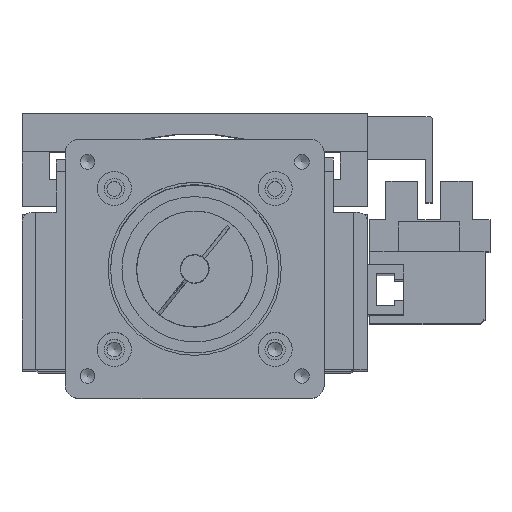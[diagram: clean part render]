
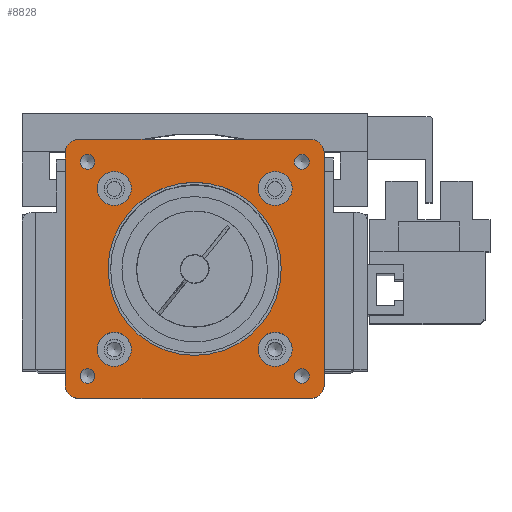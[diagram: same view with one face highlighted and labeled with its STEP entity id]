
A CAD part, top view. The second image highlights one B-rep face of the part: STEP entity #8828.
In plain terms, the highlighted planar face has unit normal (0, 0, 1).
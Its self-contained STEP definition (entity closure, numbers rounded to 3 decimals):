
#8468=CARTESIAN_POINT('',(53.691,4.93,0.0));
#8469=VERTEX_POINT('',#8468);
#8470=CARTESIAN_POINT('',(52.07,4.93,0.0));
#8471=DIRECTION('',(0.0,0.0,-1.0));
#8472=DIRECTION('',(1.0,0.0,0.0));
#8473=AXIS2_PLACEMENT_3D('',#8470,#8471,#8472);
#8474=CIRCLE('',#8473,1.621);
#8475=EDGE_CURVE('',#8469,#8469,#8474,.T.);
#8505=CARTESIAN_POINT('',(6.551,52.07,0.0));
#8506=VERTEX_POINT('',#8505);
#8507=CARTESIAN_POINT('',(4.93,52.07,0.0));
#8508=DIRECTION('',(0.0,0.0,-1.0));
#8509=DIRECTION('',(1.0,0.0,0.0));
#8510=AXIS2_PLACEMENT_3D('',#8507,#8508,#8509);
#8511=CIRCLE('',#8510,1.621);
#8512=EDGE_CURVE('',#8506,#8506,#8511,.T.);
#8542=CARTESIAN_POINT('',(53.691,52.07,0.0));
#8543=VERTEX_POINT('',#8542);
#8544=CARTESIAN_POINT('',(52.07,52.07,0.0));
#8545=DIRECTION('',(0.0,0.0,-1.0));
#8546=DIRECTION('',(1.0,0.0,0.0));
#8547=AXIS2_PLACEMENT_3D('',#8544,#8545,#8546);
#8548=CIRCLE('',#8547,1.621);
#8549=EDGE_CURVE('',#8543,#8543,#8548,.T.);
#8579=CARTESIAN_POINT('',(6.551,4.93,0.0));
#8580=VERTEX_POINT('',#8579);
#8581=CARTESIAN_POINT('',(4.93,4.93,0.0));
#8582=DIRECTION('',(0.0,0.0,-1.0));
#8583=DIRECTION('',(1.0,0.0,0.0));
#8584=AXIS2_PLACEMENT_3D('',#8581,#8582,#8583);
#8585=CIRCLE('',#8584,1.621);
#8586=EDGE_CURVE('',#8580,#8580,#8585,.T.);
#8610=CARTESIAN_POINT('',(0.0,54.0,0.0));
#8611=VERTEX_POINT('',#8610);
#8618=CARTESIAN_POINT('',(3.,57.0,0.0));
#8619=VERTEX_POINT('',#8618);
#8620=CARTESIAN_POINT('',(3.,54.0,0.0));
#8621=DIRECTION('',(0.0,0.0,-1.));
#8622=DIRECTION('',(-0.707,0.707,0.0));
#8623=AXIS2_PLACEMENT_3D('',#8620,#8621,#8622);
#8624=CIRCLE('',#8623,3.);
#8625=EDGE_CURVE('',#8611,#8619,#8624,.T.);
#8642=CARTESIAN_POINT('',(54.,57.,0.0));
#8643=VERTEX_POINT('',#8642);
#8644=CARTESIAN_POINT('',(54.,57.,0.0));
#8645=DIRECTION('',(-1.0,0.0,0.0));
#8646=VECTOR('',#8645,51.);
#8647=LINE('',#8644,#8646);
#8648=EDGE_CURVE('',#8643,#8619,#8647,.T.);
#8703=CARTESIAN_POINT('',(28.5,28.5,0.0));
#8704=DIRECTION('',(0.0,0.0,1.0));
#8705=DIRECTION('',(1.0,0.0,0.0));
#8706=AXIS2_PLACEMENT_3D('',#8703,#8704,#8705);
#8707=PLANE('',#8706);
#8708=ORIENTED_EDGE('',*,*,#8625,.F.);
#8709=CARTESIAN_POINT('',(0.0,3.,0.0));
#8710=VERTEX_POINT('',#8709);
#8711=CARTESIAN_POINT('',(0.0,54.0,0.0));
#8712=DIRECTION('',(0.0,-1.0,0.0));
#8713=VECTOR('',#8712,51.0);
#8714=LINE('',#8711,#8713);
#8715=EDGE_CURVE('',#8611,#8710,#8714,.T.);
#8716=ORIENTED_EDGE('',*,*,#8715,.T.);
#8717=CARTESIAN_POINT('',(3.,0.0,0.0));
#8718=VERTEX_POINT('',#8717);
#8719=CARTESIAN_POINT('',(3.,3.,0.0));
#8720=DIRECTION('',(0.0,0.0,-1.));
#8721=DIRECTION('',(-0.707,-0.707,0.0));
#8722=AXIS2_PLACEMENT_3D('',#8719,#8720,#8721);
#8723=CIRCLE('',#8722,3.);
#8724=EDGE_CURVE('',#8718,#8710,#8723,.T.);
#8725=ORIENTED_EDGE('',*,*,#8724,.F.);
#8726=CARTESIAN_POINT('',(54.0,0.0,0.0));
#8727=VERTEX_POINT('',#8726);
#8728=CARTESIAN_POINT('',(3.,0.0,0.0));
#8729=DIRECTION('',(1.0,0.0,0.0));
#8730=VECTOR('',#8729,51.0);
#8731=LINE('',#8728,#8730);
#8732=EDGE_CURVE('',#8718,#8727,#8731,.T.);
#8733=ORIENTED_EDGE('',*,*,#8732,.T.);
#8734=CARTESIAN_POINT('',(57.0,3.,0.0));
#8735=VERTEX_POINT('',#8734);
#8736=CARTESIAN_POINT('',(54.0,3.,0.0));
#8737=DIRECTION('',(0.0,0.0,-1.));
#8738=DIRECTION('',(0.707,-0.707,0.0));
#8739=AXIS2_PLACEMENT_3D('',#8736,#8737,#8738);
#8740=CIRCLE('',#8739,3.);
#8741=EDGE_CURVE('',#8735,#8727,#8740,.T.);
#8742=ORIENTED_EDGE('',*,*,#8741,.F.);
#8743=CARTESIAN_POINT('',(57.,54.,0.0));
#8744=VERTEX_POINT('',#8743);
#8745=CARTESIAN_POINT('',(57.0,3.,0.0));
#8746=DIRECTION('',(0.0,1.0,0.0));
#8747=VECTOR('',#8746,51.);
#8748=LINE('',#8745,#8747);
#8749=EDGE_CURVE('',#8735,#8744,#8748,.T.);
#8750=ORIENTED_EDGE('',*,*,#8749,.T.);
#8751=CARTESIAN_POINT('',(54.,54.,0.0));
#8752=DIRECTION('',(0.0,0.0,-1.));
#8753=DIRECTION('',(0.707,0.707,0.0));
#8754=AXIS2_PLACEMENT_3D('',#8751,#8752,#8753);
#8755=CIRCLE('',#8754,3.);
#8756=EDGE_CURVE('',#8643,#8744,#8755,.T.);
#8757=ORIENTED_EDGE('',*,*,#8756,.F.);
#8758=ORIENTED_EDGE('',*,*,#8648,.T.);
#8759=EDGE_LOOP('',(#8708,#8716,#8725,#8733,#8742,#8750,#8757,#8758));
#8760=FACE_OUTER_BOUND('',#8759,.T.);
#8761=ORIENTED_EDGE('',*,*,#8475,.T.);
#8762=EDGE_LOOP('',(#8761));
#8763=FACE_BOUND('',#8762,.T.);
#8764=ORIENTED_EDGE('',*,*,#8512,.T.);
#8765=EDGE_LOOP('',(#8764));
#8766=FACE_BOUND('',#8765,.T.);
#8767=ORIENTED_EDGE('',*,*,#8549,.T.);
#8768=EDGE_LOOP('',(#8767));
#8769=FACE_BOUND('',#8768,.T.);
#8770=ORIENTED_EDGE('',*,*,#8586,.T.);
#8771=EDGE_LOOP('',(#8770));
#8772=FACE_BOUND('',#8771,.T.);
#8773=CARTESIAN_POINT('',(49.95,10.8,0.0));
#8774=VERTEX_POINT('',#8773);
#8775=CARTESIAN_POINT('',(46.2,10.8,0.0));
#8776=DIRECTION('',(0.0,0.0,-1.0));
#8777=DIRECTION('',(1.0,0.0,0.0));
#8778=AXIS2_PLACEMENT_3D('',#8775,#8776,#8777);
#8779=CIRCLE('',#8778,3.75);
#8780=EDGE_CURVE('',#8774,#8774,#8779,.T.);
#8781=ORIENTED_EDGE('',*,*,#8780,.T.);
#8782=EDGE_LOOP('',(#8781));
#8783=FACE_BOUND('',#8782,.T.);
#8784=CARTESIAN_POINT('',(14.55,46.2,0.0));
#8785=VERTEX_POINT('',#8784);
#8786=CARTESIAN_POINT('',(10.8,46.2,0.0));
#8787=DIRECTION('',(0.0,0.0,-1.0));
#8788=DIRECTION('',(1.0,0.0,0.0));
#8789=AXIS2_PLACEMENT_3D('',#8786,#8787,#8788);
#8790=CIRCLE('',#8789,3.75);
#8791=EDGE_CURVE('',#8785,#8785,#8790,.T.);
#8792=ORIENTED_EDGE('',*,*,#8791,.T.);
#8793=EDGE_LOOP('',(#8792));
#8794=FACE_BOUND('',#8793,.T.);
#8795=CARTESIAN_POINT('',(14.55,10.8,0.0));
#8796=VERTEX_POINT('',#8795);
#8797=CARTESIAN_POINT('',(10.8,10.8,0.0));
#8798=DIRECTION('',(0.0,0.0,-1.0));
#8799=DIRECTION('',(1.0,0.0,0.0));
#8800=AXIS2_PLACEMENT_3D('',#8797,#8798,#8799);
#8801=CIRCLE('',#8800,3.75);
#8802=EDGE_CURVE('',#8796,#8796,#8801,.T.);
#8803=ORIENTED_EDGE('',*,*,#8802,.T.);
#8804=EDGE_LOOP('',(#8803));
#8805=FACE_BOUND('',#8804,.T.);
#8806=CARTESIAN_POINT('',(49.95,46.2,0.0));
#8807=VERTEX_POINT('',#8806);
#8808=CARTESIAN_POINT('',(46.2,46.2,0.0));
#8809=DIRECTION('',(0.0,0.0,-1.0));
#8810=DIRECTION('',(1.0,0.0,0.0));
#8811=AXIS2_PLACEMENT_3D('',#8808,#8809,#8810);
#8812=CIRCLE('',#8811,3.75);
#8813=EDGE_CURVE('',#8807,#8807,#8812,.T.);
#8814=ORIENTED_EDGE('',*,*,#8813,.T.);
#8815=EDGE_LOOP('',(#8814));
#8816=FACE_BOUND('',#8815,.T.);
#8817=CARTESIAN_POINT('',(47.55,28.5,0.0));
#8818=VERTEX_POINT('',#8817);
#8819=CARTESIAN_POINT('',(28.5,28.5,0.0));
#8820=DIRECTION('',(0.0,0.0,-1.0));
#8821=DIRECTION('',(-1.0,0.0,0.0));
#8822=AXIS2_PLACEMENT_3D('',#8819,#8820,#8821);
#8823=CIRCLE('',#8822,19.05);
#8824=EDGE_CURVE('',#8818,#8818,#8823,.T.);
#8825=ORIENTED_EDGE('',*,*,#8824,.T.);
#8826=EDGE_LOOP('',(#8825));
#8827=FACE_BOUND('',#8826,.T.);
#8828=ADVANCED_FACE('',(#8760,#8763,#8766,#8769,#8772,#8783,#8794,#8805,#8816,#8827),#8707,.T.);
